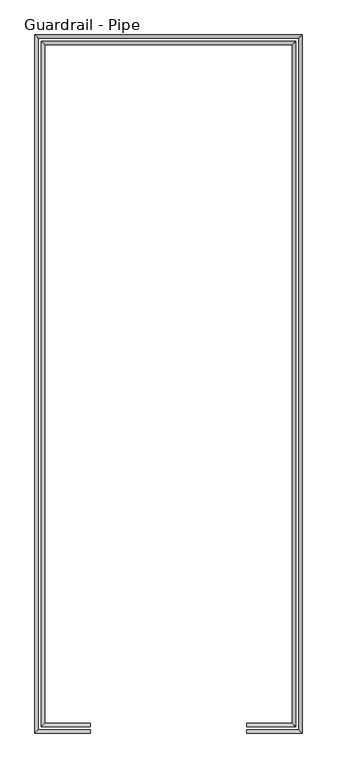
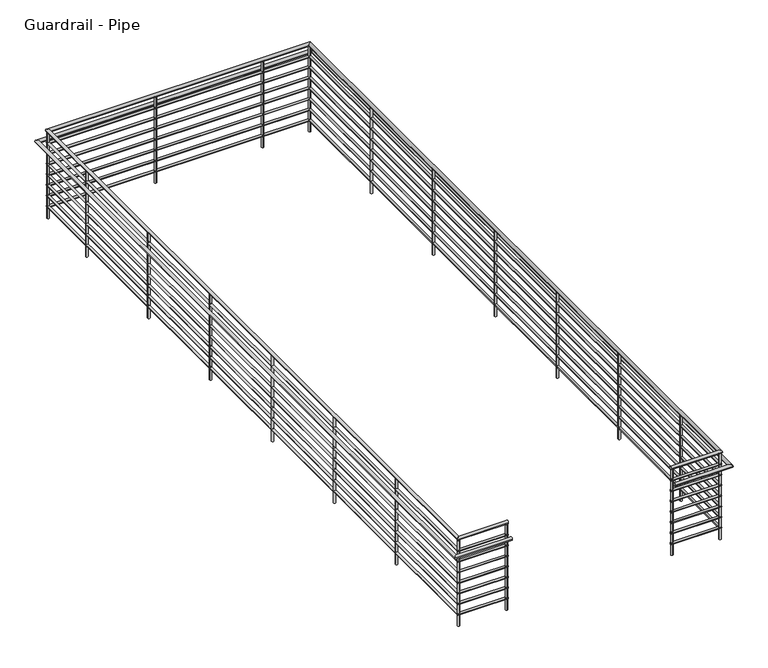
"""IFC4 building model written with IfcOpenShell, lengths in millimetres: railing geometry, Guardrail - Pipe."""

from ifc_helpers import new_model, si_unit, point, frame, frame_2d, origin, place, context, project, spatial, circle_curve, ellipse_curve, trimmed, segment, composite_curve, outline, extrude, source, transform, mapped, element, save
from ifc_brep_helpers import plane_surface, cylinder_surface, advanced_brep


def guardrail_pipe_c8bc3c76(model_context):
    return source(origin(), model_context, "Body", "SolidModel", [
        advanced_brep(
        [(11534.3313551, 21840.75, 8362.95), (11534.3313551, 21878.85, 8362.95), (10956.4813551, 21840.75, 8362.95), (10994.5813551, 21878.85, 8362.95), (10956.4813551, 29956.05, 8362.95), (10994.5813551, 29917.95, 8362.95), (13967.1813551, 29956.05, 8362.95), (13929.0813551, 29917.95, 8362.95), (13967.1813551, 21840.75, 8362.95), (13929.0813551, 21878.85, 8362.95), (13389.3313551, 21840.75, 8362.95), (13389.3313551, 21878.85, 8362.95)],
        [
            (0, 1, circle_curve(frame((11534.3313551, 21859.8, 8362.95), z_axis=(1.0, 0.0, 0.0), x_axis=(0.0, 1.0, 0.0)), 19.05)),
            (1, 0, circle_curve(frame((11534.3313551, 21859.8, 8362.95), z_axis=(1.0, 0.0, 0.0), x_axis=(0.0, 1.0, 0.0)), 19.05)),
            (0, 2),
            (2, 3, ellipse_curve(frame((10975.5313551, 21859.8, 8362.95), z_axis=(0.7071067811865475, -0.7071067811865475, 0.0), x_axis=(0.7071067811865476, 0.7071067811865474, 0.0)), 26.9407684, 19.05)),
            (3, 1),
            (3, 2, ellipse_curve(frame((10975.5313551, 21859.8, 8362.95), z_axis=(0.7071067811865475, -0.7071067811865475, 0.0), x_axis=(0.7071067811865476, 0.7071067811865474, 0.0)), 26.9407684, 19.05)),
            (2, 4),
            (4, 5, ellipse_curve(frame((10975.5313551, 29937.0, 8362.95), z_axis=(-0.7071067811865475, -0.7071067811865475, 0.0), x_axis=(0.7071067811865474, -0.7071067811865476, 0.0)), 26.9407684, 19.05)),
            (5, 3),
            (5, 4, ellipse_curve(frame((10975.5313551, 29937.0, 8362.95), z_axis=(-0.7071067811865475, -0.7071067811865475, 0.0), x_axis=(0.7071067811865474, -0.7071067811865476, 0.0)), 26.9407684, 19.05)),
            (4, 6),
            (6, 7, ellipse_curve(frame((13948.1313551, 29937.0, 8362.95), z_axis=(-0.7071067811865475, 0.7071067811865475, 0.0), x_axis=(-0.7071067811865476, -0.7071067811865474, 0.0)), 26.9407684, 19.05)),
            (7, 5),
            (7, 6, ellipse_curve(frame((13948.1313551, 29937.0, 8362.95), z_axis=(-0.7071067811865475, 0.7071067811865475, 0.0), x_axis=(-0.7071067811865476, -0.7071067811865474, 0.0)), 26.9407684, 19.05)),
            (6, 8),
            (8, 9, ellipse_curve(frame((13948.1313551, 21859.8, 8362.95), z_axis=(0.7071067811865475, 0.7071067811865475, 0.0), x_axis=(-0.7071067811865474, 0.7071067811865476, 0.0)), 26.9407684, 19.05)),
            (9, 7),
            (9, 8, ellipse_curve(frame((13948.1313551, 21859.8, 8362.95), z_axis=(0.7071067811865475, 0.7071067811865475, 0.0), x_axis=(-0.7071067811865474, 0.7071067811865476, 0.0)), 26.9407684, 19.05)),
            (10, 11, circle_curve(frame((13389.3313551, 21859.8, 8362.95), z_axis=(-1.0, 0.0, 0.0), x_axis=(0.0, 1.0, 0.0)), 19.05)),
            (11, 10, circle_curve(frame((13389.3313551, 21859.8, 8362.95), z_axis=(-1.0, 0.0, 0.0), x_axis=(0.0, 1.0, 0.0)), 19.05)),
            (8, 10),
            (11, 9),
        ],
        [
            plane_surface(frame((11534.3313551, 21859.8, 8382.0), z_axis=(1.0, 0.0, 0.0), x_axis=(0.0, -1.0, 0.0))),
            cylinder_surface(frame((11534.3313551, 21859.8, 8362.95), z_axis=(1.0, 0.0, 0.0), x_axis=(0.0, 1.0, 0.0)), 19.05),
            cylinder_surface(frame((10975.5313551, 21859.8, 8362.95), z_axis=(0.0, -1.0, 0.0), x_axis=(1.0, 0.0, 0.0)), 19.05),
            cylinder_surface(frame((10975.5313551, 29937.0, 8362.95), z_axis=(-1.0, 0.0, 0.0), x_axis=(0.0, -1.0, 0.0)), 19.05),
            cylinder_surface(frame((13948.1313551, 29937.0, 8362.95), z_axis=(0.0, 1.0, 0.0), x_axis=(-1.0, 0.0, 0.0)), 19.05),
            plane_surface(frame((13389.3313551, 21859.8, 8382.0), z_axis=(-1.0, 0.0, 0.0), x_axis=(0.0, -1.0, 0.0))),
            cylinder_surface(frame((13948.1313551, 21859.8, 8362.95), z_axis=(1.0, 0.0, 0.0), x_axis=(0.0, 1.0, 0.0)), 19.05),
        ],
        [
            (0, [[1, 2]]),
            (1, [[-1, 3, 4, 5]]),
            (1, [[-2, -5, 6, -3]]),
            (2, [[-4, 7, 8, 9]]),
            (2, [[-6, -9, 10, -7]]),
            (3, [[-8, 11, 12, 13]]),
            (3, [[-10, -13, 14, -11]]),
            (4, [[-12, 15, 16, 17]]),
            (4, [[-14, -17, 18, -15]]),
            (5, [[19, 20]]),
            (6, [[-16, 21, -20, 22]]),
            (6, [[-18, -22, -19, -21]]),
        ],
    ),
        advanced_brep(
        [(11534.3313551, 21847.1, 8216.9), (11534.3313551, 21872.5, 8216.9), (10962.8313551, 21847.1, 8216.9), (10988.2313551, 21872.5, 8216.9), (10962.8313551, 29949.7, 8216.9), (10988.2313551, 29924.3, 8216.9), (13960.8313551, 29949.7, 8216.9), (13935.4313551, 29924.3, 8216.9), (13960.8313551, 21847.1, 8216.9), (13935.4313551, 21872.5, 8216.9), (13389.3313551, 21847.1, 8216.9), (13389.3313551, 21872.5, 8216.9)],
        [
            (0, 1, circle_curve(frame((11534.3313551, 21859.8, 8216.9), z_axis=(1.0, 0.0, 0.0), x_axis=(0.0, 1.0, 0.0)), 12.7)),
            (1, 0, circle_curve(frame((11534.3313551, 21859.8, 8216.9), z_axis=(1.0, 0.0, 0.0), x_axis=(0.0, 1.0, 0.0)), 12.7)),
            (0, 2),
            (2, 3, ellipse_curve(frame((10975.5313551, 21859.8, 8216.9), z_axis=(0.7071067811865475, -0.7071067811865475, 0.0), x_axis=(0.7071067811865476, 0.7071067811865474, 0.0)), 17.9605122, 12.7)),
            (3, 1),
            (3, 2, ellipse_curve(frame((10975.5313551, 21859.8, 8216.9), z_axis=(0.7071067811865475, -0.7071067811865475, 0.0), x_axis=(0.7071067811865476, 0.7071067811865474, 0.0)), 17.9605122, 12.7)),
            (2, 4),
            (4, 5, ellipse_curve(frame((10975.5313551, 29937.0, 8216.9), z_axis=(-0.7071067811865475, -0.7071067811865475, 0.0), x_axis=(0.7071067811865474, -0.7071067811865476, 0.0)), 17.9605122, 12.7)),
            (5, 3),
            (5, 4, ellipse_curve(frame((10975.5313551, 29937.0, 8216.9), z_axis=(-0.7071067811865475, -0.7071067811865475, 0.0), x_axis=(0.7071067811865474, -0.7071067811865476, 0.0)), 17.9605122, 12.7)),
            (4, 6),
            (6, 7, ellipse_curve(frame((13948.1313551, 29937.0, 8216.9), z_axis=(-0.7071067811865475, 0.7071067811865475, 0.0), x_axis=(-0.7071067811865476, -0.7071067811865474, 0.0)), 17.9605122, 12.7)),
            (7, 5),
            (7, 6, ellipse_curve(frame((13948.1313551, 29937.0, 8216.9), z_axis=(-0.7071067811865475, 0.7071067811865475, 0.0), x_axis=(-0.7071067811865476, -0.7071067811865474, 0.0)), 17.9605122, 12.7)),
            (6, 8),
            (8, 9, ellipse_curve(frame((13948.1313551, 21859.8, 8216.9), z_axis=(0.7071067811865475, 0.7071067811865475, 0.0), x_axis=(-0.7071067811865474, 0.7071067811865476, 0.0)), 17.9605122, 12.7)),
            (9, 7),
            (9, 8, ellipse_curve(frame((13948.1313551, 21859.8, 8216.9), z_axis=(0.7071067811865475, 0.7071067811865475, 0.0), x_axis=(-0.7071067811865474, 0.7071067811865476, 0.0)), 17.9605122, 12.7)),
            (10, 11, circle_curve(frame((13389.3313551, 21859.8, 8216.9), z_axis=(-1.0, 0.0, 0.0), x_axis=(0.0, 1.0, 0.0)), 12.7)),
            (11, 10, circle_curve(frame((13389.3313551, 21859.8, 8216.9), z_axis=(-1.0, 0.0, 0.0), x_axis=(0.0, 1.0, 0.0)), 12.7)),
            (8, 10),
            (11, 9),
        ],
        [
            plane_surface(frame((11534.3313551, 21859.8, 8229.6), z_axis=(1.0, 0.0, 0.0), x_axis=(0.0, -1.0, 0.0))),
            cylinder_surface(frame((11534.3313551, 21859.8, 8216.9), z_axis=(1.0, 0.0, 0.0), x_axis=(0.0, 1.0, 0.0)), 12.7),
            cylinder_surface(frame((10975.5313551, 21859.8, 8216.9), z_axis=(0.0, -1.0, 0.0), x_axis=(1.0, 0.0, 0.0)), 12.7),
            cylinder_surface(frame((10975.5313551, 29937.0, 8216.9), z_axis=(-1.0, 0.0, 0.0), x_axis=(0.0, -1.0, 0.0)), 12.7),
            cylinder_surface(frame((13948.1313551, 29937.0, 8216.9), z_axis=(0.0, 1.0, 0.0), x_axis=(-1.0, 0.0, 0.0)), 12.7),
            plane_surface(frame((13389.3313551, 21859.8, 8229.6), z_axis=(-1.0, 0.0, 0.0), x_axis=(0.0, -1.0, 0.0))),
            cylinder_surface(frame((13948.1313551, 21859.8, 8216.9), z_axis=(1.0, 0.0, 0.0), x_axis=(0.0, 1.0, 0.0)), 12.7),
        ],
        [
            (0, [[1, 2]]),
            (1, [[-1, 3, 4, 5]]),
            (1, [[-2, -5, 6, -3]]),
            (2, [[-4, 7, 8, 9]]),
            (2, [[-6, -9, 10, -7]]),
            (3, [[-8, 11, 12, 13]]),
            (3, [[-10, -13, 14, -11]]),
            (4, [[-12, 15, 16, 17]]),
            (4, [[-14, -17, 18, -15]]),
            (5, [[19, 20]]),
            (6, [[-16, 21, -20, 22]]),
            (6, [[-18, -22, -19, -21]]),
        ],
    ),
        advanced_brep(
        [(11534.3313551, 21764.55, 8210.55), (11534.3313551, 21802.65, 8210.55), (10880.2813551, 21764.55, 8210.55), (10918.3813551, 21802.65, 8210.55), (10880.2813551, 30032.25, 8210.55), (10918.3813551, 29994.15, 8210.55), (14043.3813551, 30032.25, 8210.55), (14005.2813551, 29994.15, 8210.55), (14043.3813551, 21764.55, 8210.55), (14005.2813551, 21802.65, 8210.55), (13389.3313551, 21764.55, 8210.55), (13389.3313551, 21802.65, 8210.55)],
        [
            (0, 1, circle_curve(frame((11534.3313551, 21783.6, 8210.55), z_axis=(1.0, 0.0, 0.0), x_axis=(0.0, 1.0, 0.0)), 19.05)),
            (1, 0, circle_curve(frame((11534.3313551, 21783.6, 8210.55), z_axis=(1.0, 0.0, 0.0), x_axis=(0.0, 1.0, 0.0)), 19.05)),
            (0, 2),
            (2, 3, ellipse_curve(frame((10899.3313551, 21783.6, 8210.55), z_axis=(0.7071067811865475, -0.7071067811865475, 0.0), x_axis=(0.7071067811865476, 0.7071067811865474, 0.0)), 26.9407684, 19.05)),
            (3, 1),
            (3, 2, ellipse_curve(frame((10899.3313551, 21783.6, 8210.55), z_axis=(0.7071067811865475, -0.7071067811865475, 0.0), x_axis=(0.7071067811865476, 0.7071067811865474, 0.0)), 26.9407684, 19.05)),
            (2, 4),
            (4, 5, ellipse_curve(frame((10899.3313551, 30013.2, 8210.55), z_axis=(-0.7071067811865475, -0.7071067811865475, 0.0), x_axis=(0.7071067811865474, -0.7071067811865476, 0.0)), 26.9407684, 19.05)),
            (5, 3),
            (5, 4, ellipse_curve(frame((10899.3313551, 30013.2, 8210.55), z_axis=(-0.7071067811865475, -0.7071067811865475, 0.0), x_axis=(0.7071067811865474, -0.7071067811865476, 0.0)), 26.9407684, 19.05)),
            (4, 6),
            (6, 7, ellipse_curve(frame((14024.3313551, 30013.2, 8210.55), z_axis=(-0.7071067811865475, 0.7071067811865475, 0.0), x_axis=(-0.7071067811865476, -0.7071067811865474, 0.0)), 26.9407684, 19.05)),
            (7, 5),
            (7, 6, ellipse_curve(frame((14024.3313551, 30013.2, 8210.55), z_axis=(-0.7071067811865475, 0.7071067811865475, 0.0), x_axis=(-0.7071067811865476, -0.7071067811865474, 0.0)), 26.9407684, 19.05)),
            (6, 8),
            (8, 9, ellipse_curve(frame((14024.3313551, 21783.6, 8210.55), z_axis=(0.7071067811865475, 0.7071067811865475, 0.0), x_axis=(-0.7071067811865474, 0.7071067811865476, 0.0)), 26.9407684, 19.05)),
            (9, 7),
            (9, 8, ellipse_curve(frame((14024.3313551, 21783.6, 8210.55), z_axis=(0.7071067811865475, 0.7071067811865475, 0.0), x_axis=(-0.7071067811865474, 0.7071067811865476, 0.0)), 26.9407684, 19.05)),
            (10, 11, circle_curve(frame((13389.3313551, 21783.6, 8210.55), z_axis=(-1.0, 0.0, 0.0), x_axis=(0.0, 1.0, 0.0)), 19.05)),
            (11, 10, circle_curve(frame((13389.3313551, 21783.6, 8210.55), z_axis=(-1.0, 0.0, 0.0), x_axis=(0.0, 1.0, 0.0)), 19.05)),
            (8, 10),
            (11, 9),
        ],
        [
            plane_surface(frame((11534.3313551, 21783.6, 8229.6), z_axis=(1.0, 0.0, 0.0), x_axis=(0.0, -1.0, 0.0))),
            cylinder_surface(frame((11534.3313551, 21783.6, 8210.55), z_axis=(1.0, 0.0, 0.0), x_axis=(0.0, 1.0, 0.0)), 19.05),
            cylinder_surface(frame((10899.3313551, 21783.6, 8210.55), z_axis=(0.0, -1.0, 0.0), x_axis=(1.0, 0.0, 0.0)), 19.05),
            cylinder_surface(frame((10899.3313551, 30013.2, 8210.55), z_axis=(-1.0, 0.0, 0.0), x_axis=(0.0, -1.0, 0.0)), 19.05),
            cylinder_surface(frame((14024.3313551, 30013.2, 8210.55), z_axis=(0.0, 1.0, 0.0), x_axis=(-1.0, 0.0, 0.0)), 19.05),
            plane_surface(frame((13389.3313551, 21783.6, 8229.6), z_axis=(-1.0, 0.0, 0.0), x_axis=(0.0, -1.0, 0.0))),
            cylinder_surface(frame((14024.3313551, 21783.6, 8210.55), z_axis=(1.0, 0.0, 0.0), x_axis=(0.0, 1.0, 0.0)), 19.05),
        ],
        [
            (0, [[1, 2]]),
            (1, [[-1, 3, 4, 5]]),
            (1, [[-2, -5, 6, -3]]),
            (2, [[-4, 7, 8, 9]]),
            (2, [[-6, -9, 10, -7]]),
            (3, [[-8, 11, 12, 13]]),
            (3, [[-10, -13, 14, -11]]),
            (4, [[-12, 15, 16, 17]]),
            (4, [[-14, -17, 18, -15]]),
            (5, [[19, 20]]),
            (6, [[-16, 21, -20, 22]]),
            (6, [[-18, -22, -19, -21]]),
        ],
    ),
        advanced_brep(
        [(11534.3313551, 21847.1, 8089.9), (11534.3313551, 21872.5, 8089.9), (10962.8313551, 21847.1, 8089.9), (10988.2313551, 21872.5, 8089.9), (10962.8313551, 29949.7, 8089.9), (10988.2313551, 29924.3, 8089.9), (13960.8313551, 29949.7, 8089.9), (13935.4313551, 29924.3, 8089.9), (13960.8313551, 21847.1, 8089.9), (13935.4313551, 21872.5, 8089.9), (13389.3313551, 21847.1, 8089.9), (13389.3313551, 21872.5, 8089.9)],
        [
            (0, 1, circle_curve(frame((11534.3313551, 21859.8, 8089.9), z_axis=(1.0, 0.0, 0.0), x_axis=(0.0, 1.0, 0.0)), 12.7)),
            (1, 0, circle_curve(frame((11534.3313551, 21859.8, 8089.9), z_axis=(1.0, 0.0, 0.0), x_axis=(0.0, 1.0, 0.0)), 12.7)),
            (0, 2),
            (2, 3, ellipse_curve(frame((10975.5313551, 21859.8, 8089.9), z_axis=(0.7071067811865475, -0.7071067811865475, 0.0), x_axis=(0.7071067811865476, 0.7071067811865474, 0.0)), 17.9605122, 12.7)),
            (3, 1),
            (3, 2, ellipse_curve(frame((10975.5313551, 21859.8, 8089.9), z_axis=(0.7071067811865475, -0.7071067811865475, 0.0), x_axis=(0.7071067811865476, 0.7071067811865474, 0.0)), 17.9605122, 12.7)),
            (2, 4),
            (4, 5, ellipse_curve(frame((10975.5313551, 29937.0, 8089.9), z_axis=(-0.7071067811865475, -0.7071067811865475, 0.0), x_axis=(0.7071067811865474, -0.7071067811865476, 0.0)), 17.9605122, 12.7)),
            (5, 3),
            (5, 4, ellipse_curve(frame((10975.5313551, 29937.0, 8089.9), z_axis=(-0.7071067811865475, -0.7071067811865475, 0.0), x_axis=(0.7071067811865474, -0.7071067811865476, 0.0)), 17.9605122, 12.7)),
            (4, 6),
            (6, 7, ellipse_curve(frame((13948.1313551, 29937.0, 8089.9), z_axis=(-0.7071067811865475, 0.7071067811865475, 0.0), x_axis=(-0.7071067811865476, -0.7071067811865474, 0.0)), 17.9605122, 12.7)),
            (7, 5),
            (7, 6, ellipse_curve(frame((13948.1313551, 29937.0, 8089.9), z_axis=(-0.7071067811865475, 0.7071067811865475, 0.0), x_axis=(-0.7071067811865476, -0.7071067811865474, 0.0)), 17.9605122, 12.7)),
            (6, 8),
            (8, 9, ellipse_curve(frame((13948.1313551, 21859.8, 8089.9), z_axis=(0.7071067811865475, 0.7071067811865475, 0.0), x_axis=(-0.7071067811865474, 0.7071067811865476, 0.0)), 17.9605122, 12.7)),
            (9, 7),
            (9, 8, ellipse_curve(frame((13948.1313551, 21859.8, 8089.9), z_axis=(0.7071067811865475, 0.7071067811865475, 0.0), x_axis=(-0.7071067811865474, 0.7071067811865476, 0.0)), 17.9605122, 12.7)),
            (10, 11, circle_curve(frame((13389.3313551, 21859.8, 8089.9), z_axis=(-1.0, 0.0, 0.0), x_axis=(0.0, 1.0, 0.0)), 12.7)),
            (11, 10, circle_curve(frame((13389.3313551, 21859.8, 8089.9), z_axis=(-1.0, 0.0, 0.0), x_axis=(0.0, 1.0, 0.0)), 12.7)),
            (8, 10),
            (11, 9),
        ],
        [
            plane_surface(frame((11534.3313551, 21859.8, 8102.6), z_axis=(1.0, 0.0, 0.0), x_axis=(0.0, -1.0, 0.0))),
            cylinder_surface(frame((11534.3313551, 21859.8, 8089.9), z_axis=(1.0, 0.0, 0.0), x_axis=(0.0, 1.0, 0.0)), 12.7),
            cylinder_surface(frame((10975.5313551, 21859.8, 8089.9), z_axis=(0.0, -1.0, 0.0), x_axis=(1.0, 0.0, 0.0)), 12.7),
            cylinder_surface(frame((10975.5313551, 29937.0, 8089.9), z_axis=(-1.0, 0.0, 0.0), x_axis=(0.0, -1.0, 0.0)), 12.7),
            cylinder_surface(frame((13948.1313551, 29937.0, 8089.9), z_axis=(0.0, 1.0, 0.0), x_axis=(-1.0, 0.0, 0.0)), 12.7),
            plane_surface(frame((13389.3313551, 21859.8, 8102.6), z_axis=(-1.0, 0.0, 0.0), x_axis=(0.0, -1.0, 0.0))),
            cylinder_surface(frame((13948.1313551, 21859.8, 8089.9), z_axis=(1.0, 0.0, 0.0), x_axis=(0.0, 1.0, 0.0)), 12.7),
        ],
        [
            (0, [[1, 2]]),
            (1, [[-1, 3, 4, 5]]),
            (1, [[-2, -5, 6, -3]]),
            (2, [[-4, 7, 8, 9]]),
            (2, [[-6, -9, 10, -7]]),
            (3, [[-8, 11, 12, 13]]),
            (3, [[-10, -13, 14, -11]]),
            (4, [[-12, 15, 16, 17]]),
            (4, [[-14, -17, 18, -15]]),
            (5, [[19, 20]]),
            (6, [[-16, 21, -20, 22]]),
            (6, [[-18, -22, -19, -21]]),
        ],
    ),
        advanced_brep(
        [(11534.3313551, 21847.1, 7962.9), (11534.3313551, 21872.5, 7962.9), (10962.8313551, 21847.1, 7962.9), (10988.2313551, 21872.5, 7962.9), (10962.8313551, 29949.7, 7962.9), (10988.2313551, 29924.3, 7962.9), (13960.8313551, 29949.7, 7962.9), (13935.4313551, 29924.3, 7962.9), (13960.8313551, 21847.1, 7962.9), (13935.4313551, 21872.5, 7962.9), (13389.3313551, 21847.1, 7962.9), (13389.3313551, 21872.5, 7962.9)],
        [
            (0, 1, circle_curve(frame((11534.3313551, 21859.8, 7962.9), z_axis=(1.0, 0.0, 0.0), x_axis=(0.0, 1.0, 0.0)), 12.7)),
            (1, 0, circle_curve(frame((11534.3313551, 21859.8, 7962.9), z_axis=(1.0, 0.0, 0.0), x_axis=(0.0, 1.0, 0.0)), 12.7)),
            (0, 2),
            (2, 3, ellipse_curve(frame((10975.5313551, 21859.8, 7962.9), z_axis=(0.7071067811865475, -0.7071067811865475, 0.0), x_axis=(0.7071067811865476, 0.7071067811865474, 0.0)), 17.9605122, 12.7)),
            (3, 1),
            (3, 2, ellipse_curve(frame((10975.5313551, 21859.8, 7962.9), z_axis=(0.7071067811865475, -0.7071067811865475, 0.0), x_axis=(0.7071067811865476, 0.7071067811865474, 0.0)), 17.9605122, 12.7)),
            (2, 4),
            (4, 5, ellipse_curve(frame((10975.5313551, 29937.0, 7962.9), z_axis=(-0.7071067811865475, -0.7071067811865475, 0.0), x_axis=(0.7071067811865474, -0.7071067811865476, 0.0)), 17.9605122, 12.7)),
            (5, 3),
            (5, 4, ellipse_curve(frame((10975.5313551, 29937.0, 7962.9), z_axis=(-0.7071067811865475, -0.7071067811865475, 0.0), x_axis=(0.7071067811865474, -0.7071067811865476, 0.0)), 17.9605122, 12.7)),
            (4, 6),
            (6, 7, ellipse_curve(frame((13948.1313551, 29937.0, 7962.9), z_axis=(-0.7071067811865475, 0.7071067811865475, 0.0), x_axis=(-0.7071067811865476, -0.7071067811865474, 0.0)), 17.9605122, 12.7)),
            (7, 5),
            (7, 6, ellipse_curve(frame((13948.1313551, 29937.0, 7962.9), z_axis=(-0.7071067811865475, 0.7071067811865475, 0.0), x_axis=(-0.7071067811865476, -0.7071067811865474, 0.0)), 17.9605122, 12.7)),
            (6, 8),
            (8, 9, ellipse_curve(frame((13948.1313551, 21859.8, 7962.9), z_axis=(0.7071067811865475, 0.7071067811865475, 0.0), x_axis=(-0.7071067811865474, 0.7071067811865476, 0.0)), 17.9605122, 12.7)),
            (9, 7),
            (9, 8, ellipse_curve(frame((13948.1313551, 21859.8, 7962.9), z_axis=(0.7071067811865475, 0.7071067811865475, 0.0), x_axis=(-0.7071067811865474, 0.7071067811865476, 0.0)), 17.9605122, 12.7)),
            (10, 11, circle_curve(frame((13389.3313551, 21859.8, 7962.9), z_axis=(-1.0, 0.0, 0.0), x_axis=(0.0, 1.0, 0.0)), 12.7)),
            (11, 10, circle_curve(frame((13389.3313551, 21859.8, 7962.9), z_axis=(-1.0, 0.0, 0.0), x_axis=(0.0, 1.0, 0.0)), 12.7)),
            (8, 10),
            (11, 9),
        ],
        [
            plane_surface(frame((11534.3313551, 21859.8, 7975.6), z_axis=(1.0, 0.0, 0.0), x_axis=(0.0, -1.0, 0.0))),
            cylinder_surface(frame((11534.3313551, 21859.8, 7962.9), z_axis=(1.0, 0.0, 0.0), x_axis=(0.0, 1.0, 0.0)), 12.7),
            cylinder_surface(frame((10975.5313551, 21859.8, 7962.9), z_axis=(0.0, -1.0, 0.0), x_axis=(1.0, 0.0, 0.0)), 12.7),
            cylinder_surface(frame((10975.5313551, 29937.0, 7962.9), z_axis=(-1.0, 0.0, 0.0), x_axis=(0.0, -1.0, 0.0)), 12.7),
            cylinder_surface(frame((13948.1313551, 29937.0, 7962.9), z_axis=(0.0, 1.0, 0.0), x_axis=(-1.0, 0.0, 0.0)), 12.7),
            plane_surface(frame((13389.3313551, 21859.8, 7975.6), z_axis=(-1.0, 0.0, 0.0), x_axis=(0.0, -1.0, 0.0))),
            cylinder_surface(frame((13948.1313551, 21859.8, 7962.9), z_axis=(1.0, 0.0, 0.0), x_axis=(0.0, 1.0, 0.0)), 12.7),
        ],
        [
            (0, [[1, 2]]),
            (1, [[-1, 3, 4, 5]]),
            (1, [[-2, -5, 6, -3]]),
            (2, [[-4, 7, 8, 9]]),
            (2, [[-6, -9, 10, -7]]),
            (3, [[-8, 11, 12, 13]]),
            (3, [[-10, -13, 14, -11]]),
            (4, [[-12, 15, 16, 17]]),
            (4, [[-14, -17, 18, -15]]),
            (5, [[19, 20]]),
            (6, [[-16, 21, -20, 22]]),
            (6, [[-18, -22, -19, -21]]),
        ],
    ),
        advanced_brep(
        [(11534.3313551, 21847.1, 7835.9), (11534.3313551, 21872.5, 7835.9), (10962.8313551, 21847.1, 7835.9), (10988.2313551, 21872.5, 7835.9), (10962.8313551, 29949.7, 7835.9), (10988.2313551, 29924.3, 7835.9), (13960.8313551, 29949.7, 7835.9), (13935.4313551, 29924.3, 7835.9), (13960.8313551, 21847.1, 7835.9), (13935.4313551, 21872.5, 7835.9), (13389.3313551, 21847.1, 7835.9), (13389.3313551, 21872.5, 7835.9)],
        [
            (0, 1, circle_curve(frame((11534.3313551, 21859.8, 7835.9), z_axis=(1.0, 0.0, 0.0), x_axis=(0.0, 1.0, 0.0)), 12.7)),
            (1, 0, circle_curve(frame((11534.3313551, 21859.8, 7835.9), z_axis=(1.0, 0.0, 0.0), x_axis=(0.0, 1.0, 0.0)), 12.7)),
            (0, 2),
            (2, 3, ellipse_curve(frame((10975.5313551, 21859.8, 7835.9), z_axis=(0.7071067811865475, -0.7071067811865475, 0.0), x_axis=(0.7071067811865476, 0.7071067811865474, 0.0)), 17.9605122, 12.7)),
            (3, 1),
            (3, 2, ellipse_curve(frame((10975.5313551, 21859.8, 7835.9), z_axis=(0.7071067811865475, -0.7071067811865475, 0.0), x_axis=(0.7071067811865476, 0.7071067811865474, 0.0)), 17.9605122, 12.7)),
            (2, 4),
            (4, 5, ellipse_curve(frame((10975.5313551, 29937.0, 7835.9), z_axis=(-0.7071067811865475, -0.7071067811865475, 0.0), x_axis=(0.7071067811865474, -0.7071067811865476, 0.0)), 17.9605122, 12.7)),
            (5, 3),
            (5, 4, ellipse_curve(frame((10975.5313551, 29937.0, 7835.9), z_axis=(-0.7071067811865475, -0.7071067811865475, 0.0), x_axis=(0.7071067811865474, -0.7071067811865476, 0.0)), 17.9605122, 12.7)),
            (4, 6),
            (6, 7, ellipse_curve(frame((13948.1313551, 29937.0, 7835.9), z_axis=(-0.7071067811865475, 0.7071067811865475, 0.0), x_axis=(-0.7071067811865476, -0.7071067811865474, 0.0)), 17.9605122, 12.7)),
            (7, 5),
            (7, 6, ellipse_curve(frame((13948.1313551, 29937.0, 7835.9), z_axis=(-0.7071067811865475, 0.7071067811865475, 0.0), x_axis=(-0.7071067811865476, -0.7071067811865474, 0.0)), 17.9605122, 12.7)),
            (6, 8),
            (8, 9, ellipse_curve(frame((13948.1313551, 21859.8, 7835.9), z_axis=(0.7071067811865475, 0.7071067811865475, 0.0), x_axis=(-0.7071067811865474, 0.7071067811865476, 0.0)), 17.9605122, 12.7)),
            (9, 7),
            (9, 8, ellipse_curve(frame((13948.1313551, 21859.8, 7835.9), z_axis=(0.7071067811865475, 0.7071067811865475, 0.0), x_axis=(-0.7071067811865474, 0.7071067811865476, 0.0)), 17.9605122, 12.7)),
            (10, 11, circle_curve(frame((13389.3313551, 21859.8, 7835.9), z_axis=(-1.0, 0.0, 0.0), x_axis=(0.0, 1.0, 0.0)), 12.7)),
            (11, 10, circle_curve(frame((13389.3313551, 21859.8, 7835.9), z_axis=(-1.0, 0.0, 0.0), x_axis=(0.0, 1.0, 0.0)), 12.7)),
            (8, 10),
            (11, 9),
        ],
        [
            plane_surface(frame((11534.3313551, 21859.8, 7848.6), z_axis=(1.0, 0.0, 0.0), x_axis=(0.0, -1.0, 0.0))),
            cylinder_surface(frame((11534.3313551, 21859.8, 7835.9), z_axis=(1.0, 0.0, 0.0), x_axis=(0.0, 1.0, 0.0)), 12.7),
            cylinder_surface(frame((10975.5313551, 21859.8, 7835.9), z_axis=(0.0, -1.0, 0.0), x_axis=(1.0, 0.0, 0.0)), 12.7),
            cylinder_surface(frame((10975.5313551, 29937.0, 7835.9), z_axis=(-1.0, 0.0, 0.0), x_axis=(0.0, -1.0, 0.0)), 12.7),
            cylinder_surface(frame((13948.1313551, 29937.0, 7835.9), z_axis=(0.0, 1.0, 0.0), x_axis=(-1.0, 0.0, 0.0)), 12.7),
            plane_surface(frame((13389.3313551, 21859.8, 7848.6), z_axis=(-1.0, 0.0, 0.0), x_axis=(0.0, -1.0, 0.0))),
            cylinder_surface(frame((13948.1313551, 21859.8, 7835.9), z_axis=(1.0, 0.0, 0.0), x_axis=(0.0, 1.0, 0.0)), 12.7),
        ],
        [
            (0, [[1, 2]]),
            (1, [[-1, 3, 4, 5]]),
            (1, [[-2, -5, 6, -3]]),
            (2, [[-4, 7, 8, 9]]),
            (2, [[-6, -9, 10, -7]]),
            (3, [[-8, 11, 12, 13]]),
            (3, [[-10, -13, 14, -11]]),
            (4, [[-12, 15, 16, 17]]),
            (4, [[-14, -17, 18, -15]]),
            (5, [[19, 20]]),
            (6, [[-16, 21, -20, 22]]),
            (6, [[-18, -22, -19, -21]]),
        ],
    ),
        advanced_brep(
        [(11534.3313551, 21847.1, 7708.9), (11534.3313551, 21872.5, 7708.9), (10962.8313551, 21847.1, 7708.9), (10988.2313551, 21872.5, 7708.9), (10962.8313551, 29949.7, 7708.9), (10988.2313551, 29924.3, 7708.9), (13960.8313551, 29949.7, 7708.9), (13935.4313551, 29924.3, 7708.9), (13960.8313551, 21847.1, 7708.9), (13935.4313551, 21872.5, 7708.9), (13389.3313551, 21847.1, 7708.9), (13389.3313551, 21872.5, 7708.9)],
        [
            (0, 1, circle_curve(frame((11534.3313551, 21859.8, 7708.9), z_axis=(1.0, 0.0, 0.0), x_axis=(0.0, 1.0, 0.0)), 12.7)),
            (1, 0, circle_curve(frame((11534.3313551, 21859.8, 7708.9), z_axis=(1.0, 0.0, 0.0), x_axis=(0.0, 1.0, 0.0)), 12.7)),
            (0, 2),
            (2, 3, ellipse_curve(frame((10975.5313551, 21859.8, 7708.9), z_axis=(0.7071067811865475, -0.7071067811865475, 0.0), x_axis=(0.7071067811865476, 0.7071067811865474, 0.0)), 17.9605122, 12.7)),
            (3, 1),
            (3, 2, ellipse_curve(frame((10975.5313551, 21859.8, 7708.9), z_axis=(0.7071067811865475, -0.7071067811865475, 0.0), x_axis=(0.7071067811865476, 0.7071067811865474, 0.0)), 17.9605122, 12.7)),
            (2, 4),
            (4, 5, ellipse_curve(frame((10975.5313551, 29937.0, 7708.9), z_axis=(-0.7071067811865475, -0.7071067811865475, 0.0), x_axis=(0.7071067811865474, -0.7071067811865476, 0.0)), 17.9605122, 12.7)),
            (5, 3),
            (5, 4, ellipse_curve(frame((10975.5313551, 29937.0, 7708.9), z_axis=(-0.7071067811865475, -0.7071067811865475, 0.0), x_axis=(0.7071067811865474, -0.7071067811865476, 0.0)), 17.9605122, 12.7)),
            (4, 6),
            (6, 7, ellipse_curve(frame((13948.1313551, 29937.0, 7708.9), z_axis=(-0.7071067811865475, 0.7071067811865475, 0.0), x_axis=(-0.7071067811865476, -0.7071067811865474, 0.0)), 17.9605122, 12.7)),
            (7, 5),
            (7, 6, ellipse_curve(frame((13948.1313551, 29937.0, 7708.9), z_axis=(-0.7071067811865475, 0.7071067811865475, 0.0), x_axis=(-0.7071067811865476, -0.7071067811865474, 0.0)), 17.9605122, 12.7)),
            (6, 8),
            (8, 9, ellipse_curve(frame((13948.1313551, 21859.8, 7708.9), z_axis=(0.7071067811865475, 0.7071067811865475, 0.0), x_axis=(-0.7071067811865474, 0.7071067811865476, 0.0)), 17.9605122, 12.7)),
            (9, 7),
            (9, 8, ellipse_curve(frame((13948.1313551, 21859.8, 7708.9), z_axis=(0.7071067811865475, 0.7071067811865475, 0.0), x_axis=(-0.7071067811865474, 0.7071067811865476, 0.0)), 17.9605122, 12.7)),
            (10, 11, circle_curve(frame((13389.3313551, 21859.8, 7708.9), z_axis=(-1.0, 0.0, 0.0), x_axis=(0.0, 1.0, 0.0)), 12.7)),
            (11, 10, circle_curve(frame((13389.3313551, 21859.8, 7708.9), z_axis=(-1.0, 0.0, 0.0), x_axis=(0.0, 1.0, 0.0)), 12.7)),
            (8, 10),
            (11, 9),
        ],
        [
            plane_surface(frame((11534.3313551, 21859.8, 7721.6), z_axis=(1.0, 0.0, 0.0), x_axis=(0.0, -1.0, 0.0))),
            cylinder_surface(frame((11534.3313551, 21859.8, 7708.9), z_axis=(1.0, 0.0, 0.0), x_axis=(0.0, 1.0, 0.0)), 12.7),
            cylinder_surface(frame((10975.5313551, 21859.8, 7708.9), z_axis=(0.0, -1.0, 0.0), x_axis=(1.0, 0.0, 0.0)), 12.7),
            cylinder_surface(frame((10975.5313551, 29937.0, 7708.9), z_axis=(-1.0, 0.0, 0.0), x_axis=(0.0, -1.0, 0.0)), 12.7),
            cylinder_surface(frame((13948.1313551, 29937.0, 7708.9), z_axis=(0.0, 1.0, 0.0), x_axis=(-1.0, 0.0, 0.0)), 12.7),
            plane_surface(frame((13389.3313551, 21859.8, 7721.6), z_axis=(-1.0, 0.0, 0.0), x_axis=(0.0, -1.0, 0.0))),
            cylinder_surface(frame((13948.1313551, 21859.8, 7708.9), z_axis=(1.0, 0.0, 0.0), x_axis=(0.0, 1.0, 0.0)), 12.7),
        ],
        [
            (0, [[1, 2]]),
            (1, [[-1, 3, 4, 5]]),
            (1, [[-2, -5, 6, -3]]),
            (2, [[-4, 7, 8, 9]]),
            (2, [[-6, -9, 10, -7]]),
            (3, [[-8, 11, 12, 13]]),
            (3, [[-10, -13, 14, -11]]),
            (4, [[-12, 15, 16, 17]]),
            (4, [[-14, -17, 18, -15]]),
            (5, [[19, 20]]),
            (6, [[-16, 21, -20, 22]]),
            (6, [[-18, -22, -19, -21]]),
        ],
    ),
        advanced_brep(
        [(11534.3313551, 21847.1, 7581.9), (11534.3313551, 21872.5, 7581.9), (10962.8313551, 21847.1, 7581.9), (10988.2313551, 21872.5, 7581.9), (10962.8313551, 29949.7, 7581.9), (10988.2313551, 29924.3, 7581.9), (13960.8313551, 29949.7, 7581.9), (13935.4313551, 29924.3, 7581.9), (13960.8313551, 21847.1, 7581.9), (13935.4313551, 21872.5, 7581.9), (13389.3313551, 21847.1, 7581.9), (13389.3313551, 21872.5, 7581.9)],
        [
            (0, 1, circle_curve(frame((11534.3313551, 21859.8, 7581.9), z_axis=(1.0, 0.0, 0.0), x_axis=(0.0, 1.0, 0.0)), 12.7)),
            (1, 0, circle_curve(frame((11534.3313551, 21859.8, 7581.9), z_axis=(1.0, 0.0, 0.0), x_axis=(0.0, 1.0, 0.0)), 12.7)),
            (0, 2),
            (2, 3, ellipse_curve(frame((10975.5313551, 21859.8, 7581.9), z_axis=(0.7071067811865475, -0.7071067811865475, 0.0), x_axis=(0.7071067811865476, 0.7071067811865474, 0.0)), 17.9605122, 12.7)),
            (3, 1),
            (3, 2, ellipse_curve(frame((10975.5313551, 21859.8, 7581.9), z_axis=(0.7071067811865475, -0.7071067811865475, 0.0), x_axis=(0.7071067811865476, 0.7071067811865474, 0.0)), 17.9605122, 12.7)),
            (2, 4),
            (4, 5, ellipse_curve(frame((10975.5313551, 29937.0, 7581.9), z_axis=(-0.7071067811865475, -0.7071067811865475, 0.0), x_axis=(0.7071067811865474, -0.7071067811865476, 0.0)), 17.9605122, 12.7)),
            (5, 3),
            (5, 4, ellipse_curve(frame((10975.5313551, 29937.0, 7581.9), z_axis=(-0.7071067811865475, -0.7071067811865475, 0.0), x_axis=(0.7071067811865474, -0.7071067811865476, 0.0)), 17.9605122, 12.7)),
            (4, 6),
            (6, 7, ellipse_curve(frame((13948.1313551, 29937.0, 7581.9), z_axis=(-0.7071067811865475, 0.7071067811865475, 0.0), x_axis=(-0.7071067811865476, -0.7071067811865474, 0.0)), 17.9605122, 12.7)),
            (7, 5),
            (7, 6, ellipse_curve(frame((13948.1313551, 29937.0, 7581.9), z_axis=(-0.7071067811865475, 0.7071067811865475, 0.0), x_axis=(-0.7071067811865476, -0.7071067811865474, 0.0)), 17.9605122, 12.7)),
            (6, 8),
            (8, 9, ellipse_curve(frame((13948.1313551, 21859.8, 7581.9), z_axis=(0.7071067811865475, 0.7071067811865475, 0.0), x_axis=(-0.7071067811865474, 0.7071067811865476, 0.0)), 17.9605122, 12.7)),
            (9, 7),
            (9, 8, ellipse_curve(frame((13948.1313551, 21859.8, 7581.9), z_axis=(0.7071067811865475, 0.7071067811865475, 0.0), x_axis=(-0.7071067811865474, 0.7071067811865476, 0.0)), 17.9605122, 12.7)),
            (10, 11, circle_curve(frame((13389.3313551, 21859.8, 7581.9), z_axis=(-1.0, 0.0, 0.0), x_axis=(0.0, 1.0, 0.0)), 12.7)),
            (11, 10, circle_curve(frame((13389.3313551, 21859.8, 7581.9), z_axis=(-1.0, 0.0, 0.0), x_axis=(0.0, 1.0, 0.0)), 12.7)),
            (8, 10),
            (11, 9),
        ],
        [
            plane_surface(frame((11534.3313551, 21859.8, 7594.6), z_axis=(1.0, 0.0, 0.0), x_axis=(0.0, -1.0, 0.0))),
            cylinder_surface(frame((11534.3313551, 21859.8, 7581.9), z_axis=(1.0, 0.0, 0.0), x_axis=(0.0, 1.0, 0.0)), 12.7),
            cylinder_surface(frame((10975.5313551, 21859.8, 7581.9), z_axis=(0.0, -1.0, 0.0), x_axis=(1.0, 0.0, 0.0)), 12.7),
            cylinder_surface(frame((10975.5313551, 29937.0, 7581.9), z_axis=(-1.0, 0.0, 0.0), x_axis=(0.0, -1.0, 0.0)), 12.7),
            cylinder_surface(frame((13948.1313551, 29937.0, 7581.9), z_axis=(0.0, 1.0, 0.0), x_axis=(-1.0, 0.0, 0.0)), 12.7),
            plane_surface(frame((13389.3313551, 21859.8, 7594.6), z_axis=(-1.0, 0.0, 0.0), x_axis=(0.0, -1.0, 0.0))),
            cylinder_surface(frame((13948.1313551, 21859.8, 7581.9), z_axis=(1.0, 0.0, 0.0), x_axis=(0.0, 1.0, 0.0)), 12.7),
        ],
        [
            (0, [[1, 2]]),
            (1, [[-1, 3, 4, 5]]),
            (1, [[-2, -5, 6, -3]]),
            (2, [[-4, 7, 8, 9]]),
            (2, [[-6, -9, 10, -7]]),
            (3, [[-8, 11, 12, 13]]),
            (3, [[-10, -13, 14, -11]]),
            (4, [[-12, 15, 16, 17]]),
            (4, [[-14, -17, 18, -15]]),
            (5, [[19, 20]]),
            (6, [[-16, 21, -20, 22]]),
            (6, [[-18, -22, -19, -21]]),
        ],
    ),
        advanced_brep(
        [(11534.3313551, 21847.1, 7454.9), (11534.3313551, 21872.5, 7454.9), (10962.8313551, 21847.1, 7454.9), (10988.2313551, 21872.5, 7454.9), (10962.8313551, 29949.7, 7454.9), (10988.2313551, 29924.3, 7454.9), (13960.8313551, 29949.7, 7454.9), (13935.4313551, 29924.3, 7454.9), (13960.8313551, 21847.1, 7454.9), (13935.4313551, 21872.5, 7454.9), (13389.3313551, 21847.1, 7454.9), (13389.3313551, 21872.5, 7454.9)],
        [
            (0, 1, circle_curve(frame((11534.3313551, 21859.8, 7454.9), z_axis=(1.0, 0.0, 0.0), x_axis=(0.0, 1.0, 0.0)), 12.7)),
            (1, 0, circle_curve(frame((11534.3313551, 21859.8, 7454.9), z_axis=(1.0, 0.0, 0.0), x_axis=(0.0, 1.0, 0.0)), 12.7)),
            (0, 2),
            (2, 3, ellipse_curve(frame((10975.5313551, 21859.8, 7454.9), z_axis=(0.7071067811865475, -0.7071067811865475, 0.0), x_axis=(0.7071067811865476, 0.7071067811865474, 0.0)), 17.9605122, 12.7)),
            (3, 1),
            (3, 2, ellipse_curve(frame((10975.5313551, 21859.8, 7454.9), z_axis=(0.7071067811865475, -0.7071067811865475, 0.0), x_axis=(0.7071067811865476, 0.7071067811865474, 0.0)), 17.9605122, 12.7)),
            (2, 4),
            (4, 5, ellipse_curve(frame((10975.5313551, 29937.0, 7454.9), z_axis=(-0.7071067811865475, -0.7071067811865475, 0.0), x_axis=(0.7071067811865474, -0.7071067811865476, 0.0)), 17.9605122, 12.7)),
            (5, 3),
            (5, 4, ellipse_curve(frame((10975.5313551, 29937.0, 7454.9), z_axis=(-0.7071067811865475, -0.7071067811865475, 0.0), x_axis=(0.7071067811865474, -0.7071067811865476, 0.0)), 17.9605122, 12.7)),
            (4, 6),
            (6, 7, ellipse_curve(frame((13948.1313551, 29937.0, 7454.9), z_axis=(-0.7071067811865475, 0.7071067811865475, 0.0), x_axis=(-0.7071067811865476, -0.7071067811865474, 0.0)), 17.9605122, 12.7)),
            (7, 5),
            (7, 6, ellipse_curve(frame((13948.1313551, 29937.0, 7454.9), z_axis=(-0.7071067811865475, 0.7071067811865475, 0.0), x_axis=(-0.7071067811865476, -0.7071067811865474, 0.0)), 17.9605122, 12.7)),
            (6, 8),
            (8, 9, ellipse_curve(frame((13948.1313551, 21859.8, 7454.9), z_axis=(0.7071067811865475, 0.7071067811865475, 0.0), x_axis=(-0.7071067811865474, 0.7071067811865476, 0.0)), 17.9605122, 12.7)),
            (9, 7),
            (9, 8, ellipse_curve(frame((13948.1313551, 21859.8, 7454.9), z_axis=(0.7071067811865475, 0.7071067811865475, 0.0), x_axis=(-0.7071067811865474, 0.7071067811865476, 0.0)), 17.9605122, 12.7)),
            (10, 11, circle_curve(frame((13389.3313551, 21859.8, 7454.9), z_axis=(-1.0, 0.0, 0.0), x_axis=(0.0, 1.0, 0.0)), 12.7)),
            (11, 10, circle_curve(frame((13389.3313551, 21859.8, 7454.9), z_axis=(-1.0, 0.0, 0.0), x_axis=(0.0, 1.0, 0.0)), 12.7)),
            (8, 10),
            (11, 9),
        ],
        [
            plane_surface(frame((11534.3313551, 21859.8, 7467.6), z_axis=(1.0, 0.0, 0.0), x_axis=(0.0, -1.0, 0.0))),
            cylinder_surface(frame((11534.3313551, 21859.8, 7454.9), z_axis=(1.0, 0.0, 0.0), x_axis=(0.0, 1.0, 0.0)), 12.7),
            cylinder_surface(frame((10975.5313551, 21859.8, 7454.9), z_axis=(0.0, -1.0, 0.0), x_axis=(1.0, 0.0, 0.0)), 12.7),
            cylinder_surface(frame((10975.5313551, 29937.0, 7454.9), z_axis=(-1.0, 0.0, 0.0), x_axis=(0.0, -1.0, 0.0)), 12.7),
            cylinder_surface(frame((13948.1313551, 29937.0, 7454.9), z_axis=(0.0, 1.0, 0.0), x_axis=(-1.0, 0.0, 0.0)), 12.7),
            plane_surface(frame((13389.3313551, 21859.8, 7467.6), z_axis=(-1.0, 0.0, 0.0), x_axis=(0.0, -1.0, 0.0))),
            cylinder_surface(frame((13948.1313551, 21859.8, 7454.9), z_axis=(1.0, 0.0, 0.0), x_axis=(0.0, 1.0, 0.0)), 12.7),
        ],
        [
            (0, [[1, 2]]),
            (1, [[-1, 3, 4, 5]]),
            (1, [[-2, -5, 6, -3]]),
            (2, [[-4, 7, 8, 9]]),
            (2, [[-6, -9, 10, -7]]),
            (3, [[-8, 11, 12, 13]]),
            (3, [[-10, -13, 14, -11]]),
            (4, [[-12, 15, 16, 17]]),
            (4, [[-14, -17, 18, -15]]),
            (5, [[19, 20]]),
            (6, [[-16, 21, -20, 22]]),
            (6, [[-18, -22, -19, -21]]),
        ],
    ),
        extrude(outline(composite_curve([segment(trimmed(circle_curve(frame_2d((13948.1313551, 22621.8)), 12.7), [point((13960.8313551, 22621.8))], [point((13935.4313551, 22621.8))], False, "CARTESIAN"), True, "CONTINUOUS"), segment(trimmed(circle_curve(frame_2d((13948.1313551, 22621.8)), 12.7), [point((13935.4313551, 22621.8))], [point((13960.8313551, 22621.8))], False, "CARTESIAN"), True, "CONTINUOUS")], self_intersect=False)), frame((0.0, 0.0, 7315.2), z_axis=(0.0, 0.0, 1.0), x_axis=(1.0, 0.0, 0.0)), (0.0, 0.0, 1.0), 1028.7),
        extrude(outline(composite_curve([segment(trimmed(circle_curve(frame_2d((13948.1313551, 23841.0)), 12.7), [point((13960.8313551, 23841.0))], [point((13935.4313551, 23841.0))], False, "CARTESIAN"), True, "CONTINUOUS"), segment(trimmed(circle_curve(frame_2d((13948.1313551, 23841.0)), 12.7), [point((13935.4313551, 23841.0))], [point((13960.8313551, 23841.0))], False, "CARTESIAN"), True, "CONTINUOUS")], self_intersect=False)), frame((0.0, 0.0, 7315.2), z_axis=(0.0, 0.0, 1.0), x_axis=(1.0, 0.0, 0.0)), (0.0, 0.0, 1.0), 1028.7),
        extrude(outline(composite_curve([segment(trimmed(circle_curve(frame_2d((13948.1313551, 25060.2)), 12.7), [point((13960.8313551, 25060.2))], [point((13935.4313551, 25060.2))], False, "CARTESIAN"), True, "CONTINUOUS"), segment(trimmed(circle_curve(frame_2d((13948.1313551, 25060.2)), 12.7), [point((13935.4313551, 25060.2))], [point((13960.8313551, 25060.2))], False, "CARTESIAN"), True, "CONTINUOUS")], self_intersect=False)), frame((0.0, 0.0, 7315.2), z_axis=(0.0, 0.0, 1.0), x_axis=(1.0, 0.0, 0.0)), (0.0, 0.0, 1.0), 1028.7),
        extrude(outline(composite_curve([segment(trimmed(circle_curve(frame_2d((13948.1313551, 26279.4)), 12.7), [point((13960.8313551, 26279.4))], [point((13935.4313551, 26279.4))], False, "CARTESIAN"), True, "CONTINUOUS"), segment(trimmed(circle_curve(frame_2d((13948.1313551, 26279.4)), 12.7), [point((13935.4313551, 26279.4))], [point((13960.8313551, 26279.4))], False, "CARTESIAN"), True, "CONTINUOUS")], self_intersect=False)), frame((0.0, 0.0, 7315.2), z_axis=(0.0, 0.0, 1.0), x_axis=(1.0, 0.0, 0.0)), (0.0, 0.0, 1.0), 1028.7),
        extrude(outline(composite_curve([segment(trimmed(circle_curve(frame_2d((13948.1313551, 27498.6)), 12.7), [point((13960.8313551, 27498.6))], [point((13935.4313551, 27498.6))], False, "CARTESIAN"), True, "CONTINUOUS"), segment(trimmed(circle_curve(frame_2d((13948.1313551, 27498.6)), 12.7), [point((13935.4313551, 27498.6))], [point((13960.8313551, 27498.6))], False, "CARTESIAN"), True, "CONTINUOUS")], self_intersect=False)), frame((0.0, 0.0, 7315.2), z_axis=(0.0, 0.0, 1.0), x_axis=(1.0, 0.0, 0.0)), (0.0, 0.0, 1.0), 1028.7),
        extrude(outline(composite_curve([segment(trimmed(circle_curve(frame_2d((13948.1313551, 28717.8)), 12.7), [point((13960.8313551, 28717.8))], [point((13935.4313551, 28717.8))], False, "CARTESIAN"), True, "CONTINUOUS"), segment(trimmed(circle_curve(frame_2d((13948.1313551, 28717.8)), 12.7), [point((13935.4313551, 28717.8))], [point((13960.8313551, 28717.8))], False, "CARTESIAN"), True, "CONTINUOUS")], self_intersect=False)), frame((0.0, 0.0, 7315.2), z_axis=(0.0, 0.0, 1.0), x_axis=(1.0, 0.0, 0.0)), (0.0, 0.0, 1.0), 1028.7),
        extrude(outline(composite_curve([segment(trimmed(circle_curve(frame_2d((13413.9313551, 29937.0)), 12.7), [point((13413.9313551, 29949.7))], [point((13413.9313551, 29924.3))], False, "CARTESIAN"), True, "CONTINUOUS"), segment(trimmed(circle_curve(frame_2d((13413.9313551, 29937.0)), 12.7), [point((13413.9313551, 29924.3))], [point((13413.9313551, 29949.7))], False, "CARTESIAN"), True, "CONTINUOUS")], self_intersect=False)), frame((0.0, 0.0, 7315.2), z_axis=(0.0, 0.0, 1.0), x_axis=(1.0, 0.0, 0.0)), (0.0, 0.0, 1.0), 1028.7),
        extrude(outline(composite_curve([segment(trimmed(circle_curve(frame_2d((12194.7313551, 29937.0)), 12.7), [point((12194.7313551, 29949.7))], [point((12194.7313551, 29924.3))], False, "CARTESIAN"), True, "CONTINUOUS"), segment(trimmed(circle_curve(frame_2d((12194.7313551, 29937.0)), 12.7), [point((12194.7313551, 29924.3))], [point((12194.7313551, 29949.7))], False, "CARTESIAN"), True, "CONTINUOUS")], self_intersect=False)), frame((0.0, 0.0, 7315.2), z_axis=(0.0, 0.0, 1.0), x_axis=(1.0, 0.0, 0.0)), (0.0, 0.0, 1.0), 1028.7),
        extrude(outline(composite_curve([segment(trimmed(circle_curve(frame_2d((10975.5313551, 29175.0)), 12.7), [point((10962.8313551, 29175.0))], [point((10988.2313551, 29175.0))], False, "CARTESIAN"), True, "CONTINUOUS"), segment(trimmed(circle_curve(frame_2d((10975.5313551, 29175.0)), 12.7), [point((10988.2313551, 29175.0))], [point((10962.8313551, 29175.0))], False, "CARTESIAN"), True, "CONTINUOUS")], self_intersect=False)), frame((0.0, 0.0, 7315.2), z_axis=(0.0, 0.0, 1.0), x_axis=(1.0, 0.0, 0.0)), (0.0, 0.0, 1.0), 1028.7),
        extrude(outline(composite_curve([segment(trimmed(circle_curve(frame_2d((10975.5313551, 27955.8)), 12.7), [point((10962.8313551, 27955.8))], [point((10988.2313551, 27955.8))], False, "CARTESIAN"), True, "CONTINUOUS"), segment(trimmed(circle_curve(frame_2d((10975.5313551, 27955.8)), 12.7), [point((10988.2313551, 27955.8))], [point((10962.8313551, 27955.8))], False, "CARTESIAN"), True, "CONTINUOUS")], self_intersect=False)), frame((0.0, 0.0, 7315.2), z_axis=(0.0, 0.0, 1.0), x_axis=(1.0, 0.0, 0.0)), (0.0, 0.0, 1.0), 1028.7),
        extrude(outline(composite_curve([segment(trimmed(circle_curve(frame_2d((10975.5313551, 26736.6)), 12.7), [point((10962.8313551, 26736.6))], [point((10988.2313551, 26736.6))], False, "CARTESIAN"), True, "CONTINUOUS"), segment(trimmed(circle_curve(frame_2d((10975.5313551, 26736.6)), 12.7), [point((10988.2313551, 26736.6))], [point((10962.8313551, 26736.6))], False, "CARTESIAN"), True, "CONTINUOUS")], self_intersect=False)), frame((0.0, 0.0, 7315.2), z_axis=(0.0, 0.0, 1.0), x_axis=(1.0, 0.0, 0.0)), (0.0, 0.0, 1.0), 1028.7),
        extrude(outline(composite_curve([segment(trimmed(circle_curve(frame_2d((10975.5313551, 25517.4)), 12.7), [point((10962.8313551, 25517.4))], [point((10988.2313551, 25517.4))], False, "CARTESIAN"), True, "CONTINUOUS"), segment(trimmed(circle_curve(frame_2d((10975.5313551, 25517.4)), 12.7), [point((10988.2313551, 25517.4))], [point((10962.8313551, 25517.4))], False, "CARTESIAN"), True, "CONTINUOUS")], self_intersect=False)), frame((0.0, 0.0, 7315.2), z_axis=(0.0, 0.0, 1.0), x_axis=(1.0, 0.0, 0.0)), (0.0, 0.0, 1.0), 1028.7),
        extrude(outline(composite_curve([segment(trimmed(circle_curve(frame_2d((10975.5313551, 24298.2)), 12.7), [point((10962.8313551, 24298.2))], [point((10988.2313551, 24298.2))], False, "CARTESIAN"), True, "CONTINUOUS"), segment(trimmed(circle_curve(frame_2d((10975.5313551, 24298.2)), 12.7), [point((10988.2313551, 24298.2))], [point((10962.8313551, 24298.2))], False, "CARTESIAN"), True, "CONTINUOUS")], self_intersect=False)), frame((0.0, 0.0, 7315.2), z_axis=(0.0, 0.0, 1.0), x_axis=(1.0, 0.0, 0.0)), (0.0, 0.0, 1.0), 1028.7),
        extrude(outline(composite_curve([segment(trimmed(circle_curve(frame_2d((10975.5313551, 23079.0)), 12.7), [point((10962.8313551, 23079.0))], [point((10988.2313551, 23079.0))], False, "CARTESIAN"), True, "CONTINUOUS"), segment(trimmed(circle_curve(frame_2d((10975.5313551, 23079.0)), 12.7), [point((10988.2313551, 23079.0))], [point((10962.8313551, 23079.0))], False, "CARTESIAN"), True, "CONTINUOUS")], self_intersect=False)), frame((0.0, 0.0, 7315.2), z_axis=(0.0, 0.0, 1.0), x_axis=(1.0, 0.0, 0.0)), (0.0, 0.0, 1.0), 1028.7),
        extrude(outline(composite_curve([segment(trimmed(circle_curve(frame_2d((13948.1313551, 21859.8)), 12.7), [point((13960.8313551, 21859.8))], [point((13935.4313551, 21859.8))], False, "CARTESIAN"), True, "CONTINUOUS"), segment(trimmed(circle_curve(frame_2d((13948.1313551, 21859.8)), 12.7), [point((13935.4313551, 21859.8))], [point((13960.8313551, 21859.8))], False, "CARTESIAN"), True, "CONTINUOUS")], self_intersect=False)), frame((0.0, 0.0, 7315.2), z_axis=(0.0, 0.0, 1.0), x_axis=(1.0, 0.0, 0.0)), (0.0, 0.0, 1.0), 1028.7),
        extrude(outline(composite_curve([segment(trimmed(circle_curve(frame_2d((13948.1313551, 29937.0)), 12.7), [point((13948.1313551, 29949.7))], [point((13948.1313551, 29924.3))], False, "CARTESIAN"), True, "CONTINUOUS"), segment(trimmed(circle_curve(frame_2d((13948.1313551, 29937.0)), 12.7), [point((13948.1313551, 29924.3))], [point((13948.1313551, 29949.7))], False, "CARTESIAN"), True, "CONTINUOUS")], self_intersect=False)), frame((0.0, 0.0, 7315.2), z_axis=(0.0, 0.0, 1.0), x_axis=(1.0, 0.0, 0.0)), (0.0, 0.0, 1.0), 1028.7),
        extrude(outline(composite_curve([segment(trimmed(circle_curve(frame_2d((10975.5313551, 29937.0)), 12.7), [point((10962.8313551, 29937.0))], [point((10988.2313551, 29937.0))], False, "CARTESIAN"), True, "CONTINUOUS"), segment(trimmed(circle_curve(frame_2d((10975.5313551, 29937.0)), 12.7), [point((10988.2313551, 29937.0))], [point((10962.8313551, 29937.0))], False, "CARTESIAN"), True, "CONTINUOUS")], self_intersect=False)), frame((0.0, 0.0, 7315.2), z_axis=(0.0, 0.0, 1.0), x_axis=(1.0, 0.0, 0.0)), (0.0, 0.0, 1.0), 1028.7),
        extrude(outline(composite_curve([segment(trimmed(circle_curve(frame_2d((10975.5313551, 21859.8)), 12.7), [point((10975.5313551, 21847.1))], [point((10975.5313551, 21872.5))], False, "CARTESIAN"), True, "CONTINUOUS"), segment(trimmed(circle_curve(frame_2d((10975.5313551, 21859.8)), 12.7), [point((10975.5313551, 21872.5))], [point((10975.5313551, 21847.1))], False, "CARTESIAN"), True, "CONTINUOUS")], self_intersect=False)), frame((0.0, 0.0, 7315.2), z_axis=(0.0, 0.0, 1.0), x_axis=(1.0, 0.0, 0.0)), (0.0, 0.0, 1.0), 1028.7),
        extrude(outline(composite_curve([segment(trimmed(circle_curve(frame_2d((13402.0313551, 21859.8)), 12.7), [point((13402.0313551, 21847.1))], [point((13402.0313551, 21872.5))], False, "CARTESIAN"), True, "CONTINUOUS"), segment(trimmed(circle_curve(frame_2d((13402.0313551, 21859.8)), 12.7), [point((13402.0313551, 21872.5))], [point((13402.0313551, 21847.1))], False, "CARTESIAN"), True, "CONTINUOUS")], self_intersect=False)), frame((0.0, 0.0, 7315.2), z_axis=(0.0, 0.0, 1.0), x_axis=(1.0, 0.0, 0.0)), (0.0, 0.0, 1.0), 1028.7),
        extrude(outline(composite_curve([segment(trimmed(circle_curve(frame_2d((11521.6313551, 21859.8)), 12.7), [point((11521.6313551, 21847.1))], [point((11521.6313551, 21872.5))], False, "CARTESIAN"), True, "CONTINUOUS"), segment(trimmed(circle_curve(frame_2d((11521.6313551, 21859.8)), 12.7), [point((11521.6313551, 21872.5))], [point((11521.6313551, 21847.1))], False, "CARTESIAN"), True, "CONTINUOUS")], self_intersect=False)), frame((0.0, 0.0, 7315.2), z_axis=(0.0, 0.0, 1.0), x_axis=(1.0, 0.0, 0.0)), (0.0, 0.0, 1.0), 1028.7),
    ])


if __name__ == "__main__":
    model = new_model("IFC4")
    model_context = context("Model", 3, world=origin())
    ifc_project = project(units=[si_unit("LENGTHUNIT", "METRE", prefix="MILLI")], contexts=[model_context])
    site = spatial("IfcSite", under=ifc_project)
    building = spatial("IfcBuilding", under=site)
    placement = place(None, origin())
    guardrail_pipe_shape = guardrail_pipe_c8bc3c76(model_context)
    element("IfcRailing", 1, ObjectType="Guardrail - Pipe", at=placement, inside=building, context=model_context, shape_type="MappedRepresentation", body=[
        mapped(guardrail_pipe_shape, transform((0.0, 0.0, 0.0), x_axis=(1.0, 0.0, 0.0), y_axis=(0.0, 1.0, 0.0), z_axis=(0.0, 0.0, 1.0))),
    ])
    save(model, "model.ifc")
